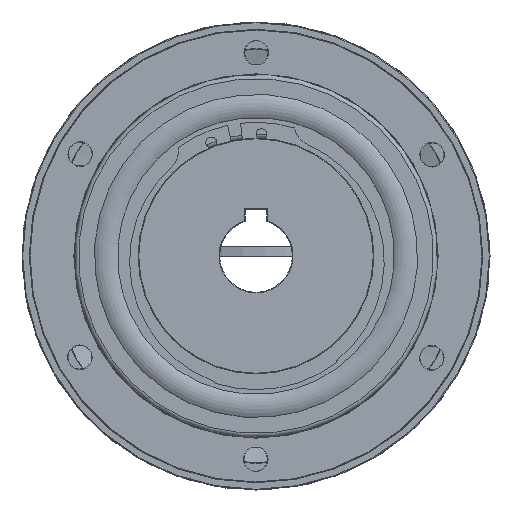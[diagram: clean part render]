
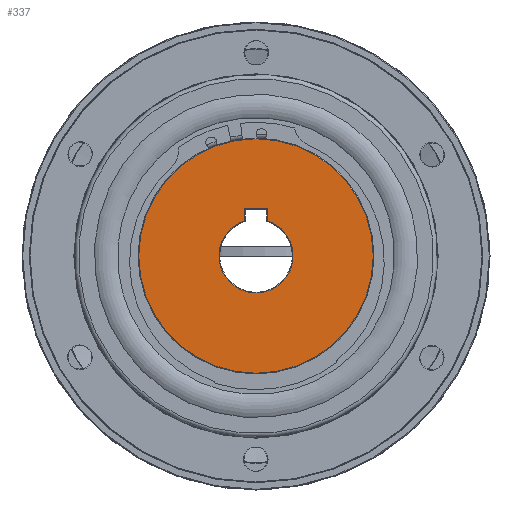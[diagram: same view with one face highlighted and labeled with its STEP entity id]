
A CAD part, left-side view. The second image highlights one B-rep face of the part: STEP entity #337.
In plain terms, the highlighted planar face has unit normal (-1, 0, 0).
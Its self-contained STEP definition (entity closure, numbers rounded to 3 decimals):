
#337 = ADVANCED_FACE( '', ( #623, #624 ), #625, .F. );
#623 = FACE_OUTER_BOUND( '', #971, .T. );
#624 = FACE_BOUND( '', #972, .T. );
#625 = PLANE( '', #973 );
#971 = EDGE_LOOP( '', ( #1576 ) );
#972 = EDGE_LOOP( '', ( #1577, #1578, #1579, #1580 ) );
#973 = AXIS2_PLACEMENT_3D( '', #1581, #1582, #1583 );
#1576 = ORIENTED_EDGE( '', *, *, #1882, .T. );
#1577 = ORIENTED_EDGE( '', *, *, #1897, .T. );
#1578 = ORIENTED_EDGE( '', *, *, #1898, .T. );
#1579 = ORIENTED_EDGE( '', *, *, #1868, .T. );
#1580 = ORIENTED_EDGE( '', *, *, #1873, .T. );
#1581 = CARTESIAN_POINT( '', ( -53.3, 32.5, 0. ) );
#1582 = DIRECTION( '', ( 1., 0., 0. ) );
#1583 = DIRECTION( '', ( 0., 1., 0. ) );
#1868 = EDGE_CURVE( '', #2121, #2122, #2123, .T. );
#1873 = EDGE_CURVE( '', #2122, #2128, #2130, .T. );
#1882 = EDGE_CURVE( '', #2147, #2147, #2148, .T. );
#1897 = EDGE_CURVE( '', #2128, #2173, #2174, .T. );
#1898 = EDGE_CURVE( '', #2173, #2121, #2175, .T. );
#2121 = VERTEX_POINT( '', #2782 );
#2122 = VERTEX_POINT( '', #2783 );
#2123 = CIRCLE( '', #2784, 10.2 );
#2128 = VERTEX_POINT( '', #2790 );
#2130 = LINE( '', #2793, #2794 );
#2147 = VERTEX_POINT( '', #2811 );
#2148 = CIRCLE( '', #2812, 32.3 );
#2173 = VERTEX_POINT( '', #2843 );
#2174 = LINE( '', #2844, #2845 );
#2175 = LINE( '', #2846, #2847 );
#2782 = CARTESIAN_POINT( '', ( -53.3, -3.2, 9.685 ) );
#2783 = CARTESIAN_POINT( '', ( -53.3, 3.2, 9.685 ) );
#2784 = AXIS2_PLACEMENT_3D( '', #3153, #3154, #3155 );
#2790 = CARTESIAN_POINT( '', ( -53.3, 3.2, 13. ) );
#2793 = CARTESIAN_POINT( '', ( -53.3, 3.2, 13. ) );
#2794 = VECTOR( '', #3164, 1000. );
#2811 = CARTESIAN_POINT( '', ( -53.3, 0., -32.3 ) );
#2812 = AXIS2_PLACEMENT_3D( '', #3189, #3190, #3191 );
#2843 = CARTESIAN_POINT( '', ( -53.3, -3.2, 13. ) );
#2844 = CARTESIAN_POINT( '', ( -53.3, -3., 13. ) );
#2845 = VECTOR( '', #3222, 1000. );
#2846 = CARTESIAN_POINT( '', ( -53.3, -3.2, 9.749 ) );
#2847 = VECTOR( '', #3223, 1000. );
#3153 = CARTESIAN_POINT( '', ( -53.3, 0., 0. ) );
#3154 = DIRECTION( '', ( 1., 0., 0. ) );
#3155 = DIRECTION( '', ( 0., 0., -1. ) );
#3164 = DIRECTION( '', ( 0., 0., 1. ) );
#3189 = CARTESIAN_POINT( '', ( -53.3, 0., 0. ) );
#3190 = DIRECTION( '', ( -1., 0., 0. ) );
#3191 = DIRECTION( '', ( 0., 0., -1. ) );
#3222 = DIRECTION( '', ( 0., -1., 0. ) );
#3223 = DIRECTION( '', ( 0., 0., -1. ) );
